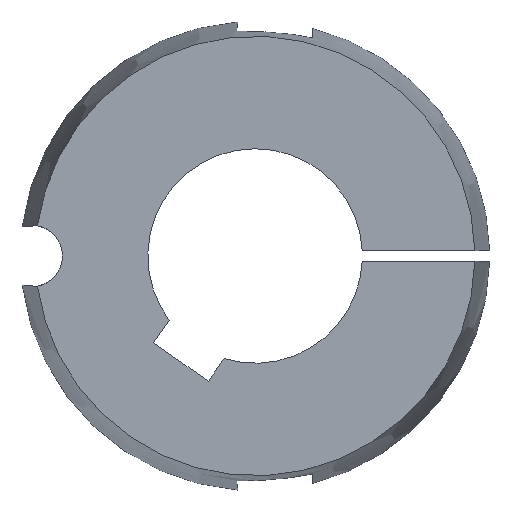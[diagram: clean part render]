
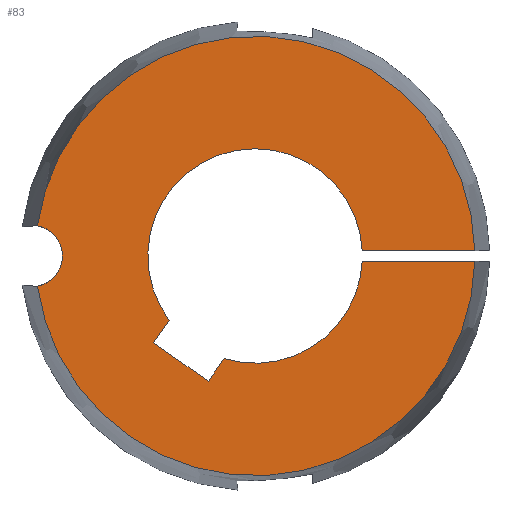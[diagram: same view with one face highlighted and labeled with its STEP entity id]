
A CAD part, left-side view. The second image highlights one B-rep face of the part: STEP entity #83.
In plain terms, the highlighted planar face has unit normal (-1, 0, 0).
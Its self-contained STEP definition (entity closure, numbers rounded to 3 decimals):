
#83 = ADVANCED_FACE( '', ( #108 ), #109, .F. );
#108 = FACE_OUTER_BOUND( '', #140, .T. );
#109 = PLANE( '', #141 );
#140 = EDGE_LOOP( '', ( #220, #221, #222, #223, #224, #225, #226, #227, #228, #229 ) );
#141 = AXIS2_PLACEMENT_3D( '', #230, #231, #232 );
#220 = ORIENTED_EDGE( '', *, *, #293, .T. );
#221 = ORIENTED_EDGE( '', *, *, #319, .F. );
#222 = ORIENTED_EDGE( '', *, *, #320, .T. );
#223 = ORIENTED_EDGE( '', *, *, #305, .T. );
#224 = ORIENTED_EDGE( '', *, *, #303, .T. );
#225 = ORIENTED_EDGE( '', *, *, #300, .T. );
#226 = ORIENTED_EDGE( '', *, *, #310, .T. );
#227 = ORIENTED_EDGE( '', *, *, #321, .T. );
#228 = ORIENTED_EDGE( '', *, *, #294, .T. );
#229 = ORIENTED_EDGE( '', *, *, #322, .F. );
#230 = CARTESIAN_POINT( '', ( -31.8, 0., 0. ) );
#231 = DIRECTION( '', ( 1., 0., 0. ) );
#232 = DIRECTION( '', ( 0., 0., -1. ) );
#293 = EDGE_CURVE( '', #334, #339, #341, .T. );
#294 = EDGE_CURVE( '', #342, #343, #344, .T. );
#300 = EDGE_CURVE( '', #355, #353, #356, .T. );
#303 = EDGE_CURVE( '', #360, #355, #361, .T. );
#305 = EDGE_CURVE( '', #363, #360, #364, .T. );
#310 = EDGE_CURVE( '', #353, #370, #372, .T. );
#319 = EDGE_CURVE( '', #386, #339, #387, .T. );
#320 = EDGE_CURVE( '', #386, #363, #388, .T. );
#321 = EDGE_CURVE( '', #370, #342, #389, .T. );
#322 = EDGE_CURVE( '', #334, #343, #390, .T. );
#334 = VERTEX_POINT( '', #433 );
#339 = VERTEX_POINT( '', #443 );
#341 = CIRCLE( '', #450, 4.6 );
#342 = VERTEX_POINT( '', #451 );
#343 = VERTEX_POINT( '', #452 );
#344 = LINE( '', #453, #454 );
#353 = VERTEX_POINT( '', #472 );
#355 = VERTEX_POINT( '', #475 );
#356 = LINE( '', #476, #477 );
#360 = VERTEX_POINT( '', #483 );
#361 = LINE( '', #484, #485 );
#363 = VERTEX_POINT( '', #488 );
#364 = CIRCLE( '', #489, 16. );
#370 = VERTEX_POINT( '', #497 );
#372 = LINE( '', #500, #501 );
#386 = VERTEX_POINT( '', #516 );
#387 = CIRCLE( '', #517, 32.776 );
#388 = LINE( '', #518, #519 );
#389 = CIRCLE( '', #520, 16. );
#390 = CIRCLE( '', #521, 32.776 );
#433 = CARTESIAN_POINT( '', ( -31.8, 32.464, 4.516 ) );
#443 = CARTESIAN_POINT( '', ( -31.8, 32.464, -4.516 ) );
#450 = AXIS2_PLACEMENT_3D( '', #584, #585, #586 );
#451 = CARTESIAN_POINT( '', ( -31.8, -15.982, 0.75 ) );
#452 = CARTESIAN_POINT( '', ( -31.8, -32.768, 0.75 ) );
#453 = CARTESIAN_POINT( '', ( -31.8, 0., 0.75 ) );
#454 = VECTOR( '', #587, 1000. );
#472 = CARTESIAN_POINT( '', ( -31.8, 15.166, -12.942 ) );
#475 = CARTESIAN_POINT( '', ( -31.8, 6.974, -18.678 ) );
#476 = CARTESIAN_POINT( '', ( -31.8, 6.974, -18.678 ) );
#477 = VECTOR( '', #592, 1000. );
#483 = CARTESIAN_POINT( '', ( -31.8, 4.622, -15.318 ) );
#484 = CARTESIAN_POINT( '', ( -31.8, 4.622, -15.318 ) );
#485 = VECTOR( '', #595, 1000. );
#488 = CARTESIAN_POINT( '', ( -31.8, -15.982, -0.75 ) );
#489 = AXIS2_PLACEMENT_3D( '', #597, #598, #599 );
#497 = CARTESIAN_POINT( '', ( -31.8, 12.813, -9.582 ) );
#500 = CARTESIAN_POINT( '', ( -31.8, 15.166, -12.942 ) );
#501 = VECTOR( '', #606, 1000. );
#516 = CARTESIAN_POINT( '', ( -31.8, -32.768, -0.75 ) );
#517 = AXIS2_PLACEMENT_3D( '', #629, #630, #631 );
#518 = CARTESIAN_POINT( '', ( -31.8, -35., -0.75 ) );
#519 = VECTOR( '', #632, 1000. );
#520 = AXIS2_PLACEMENT_3D( '', #633, #634, #635 );
#521 = AXIS2_PLACEMENT_3D( '', #636, #637, #638 );
#584 = CARTESIAN_POINT( '', ( -31.8, 33.34, 0. ) );
#585 = DIRECTION( '', ( 1., 0., 0. ) );
#586 = DIRECTION( '', ( 0., 1., 0. ) );
#587 = DIRECTION( '', ( 0., -1., 0. ) );
#592 = DIRECTION( '', ( 0., 0.819, 0.574 ) );
#595 = DIRECTION( '', ( 0., 0.574, -0.819 ) );
#597 = CARTESIAN_POINT( '', ( -31.8, 0., 0. ) );
#598 = DIRECTION( '', ( 1., 0., 0. ) );
#599 = DIRECTION( '', ( 0., 0., -1. ) );
#606 = DIRECTION( '', ( 0., -0.574, 0.819 ) );
#629 = CARTESIAN_POINT( '', ( -31.8, 0., 0. ) );
#630 = DIRECTION( '', ( 1., 0., 0. ) );
#631 = DIRECTION( '', ( 0., 0., -1. ) );
#632 = DIRECTION( '', ( 0., 1., 0. ) );
#633 = CARTESIAN_POINT( '', ( -31.8, 0., 0. ) );
#634 = DIRECTION( '', ( 1., 0., 0. ) );
#635 = DIRECTION( '', ( 0., 0., -1. ) );
#636 = CARTESIAN_POINT( '', ( -31.8, 0., 0. ) );
#637 = DIRECTION( '', ( 1., 0., 0. ) );
#638 = DIRECTION( '', ( 0., 0., -1. ) );
